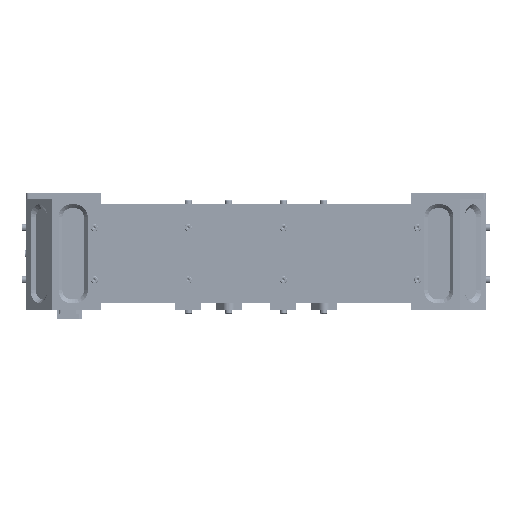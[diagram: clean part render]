
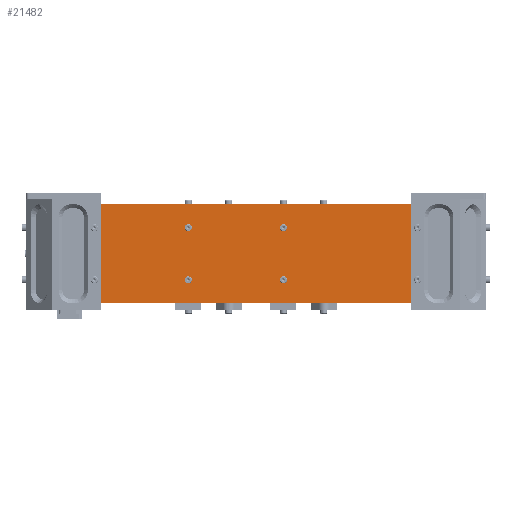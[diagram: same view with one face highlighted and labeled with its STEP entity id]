
A CAD part, front view. The second image highlights one B-rep face of the part: STEP entity #21482.
In plain terms, the highlighted planar face has unit normal (0, -1, 0) as drawn and (0, 0, 1) by its records, which use the part's own axes.
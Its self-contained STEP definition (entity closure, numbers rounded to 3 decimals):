
#551 = EDGE_LOOP ( 'NONE', ( #66320 ) ) ;
#3867 = EDGE_LOOP ( 'NONE', ( #23033 ) ) ;
#3986 = LINE ( 'NONE', #58000, #69368 ) ;
#4027 = CIRCLE ( 'NONE', #54430, 1.5 ) ;
#4542 = EDGE_CURVE ( 'NONE', #50013, #50013, #10849, .T. ) ;
#5092 = EDGE_CURVE ( 'NONE', #77213, #77213, #75226, .T. ) ;
#5293 = VECTOR ( 'NONE', #51766, 1000. ) ;
#7143 = VERTEX_POINT ( 'NONE', #40174 ) ;
#8223 = DIRECTION ( 'NONE',  ( -1., 0., 0. ) ) ;
#8430 = CARTESIAN_POINT ( 'NONE',  ( 19.502, -20., 2. ) ) ;
#8496 = AXIS2_PLACEMENT_3D ( 'NONE', #30474, #60066, #11552 ) ;
#8736 = ORIENTED_EDGE ( 'NONE', *, *, #11051, .T. ) ;
#9194 = VERTEX_POINT ( 'NONE', #40347 ) ;
#9364 = FACE_BOUND ( 'NONE', #74142, .T. ) ;
#10216 = DIRECTION ( 'NONE',  ( -1., 0., 0. ) ) ;
#10849 = CIRCLE ( 'NONE', #41061, 1.75 ) ;
#11051 = EDGE_CURVE ( 'NONE', #68396, #7143, #70907, .T. ) ;
#11508 = LINE ( 'NONE', #59644, #5293 ) ;
#11552 = DIRECTION ( 'NONE',  ( -1., 0., 0. ) ) ;
#12549 = ORIENTED_EDGE ( 'NONE', *, *, #50160, .T. ) ;
#13053 = CIRCLE ( 'NONE', #25679, 1.75 ) ;
#13081 = DIRECTION ( 'NONE',  ( 0., 0., -1. ) ) ;
#13945 = VECTOR ( 'NONE', #15033, 1000. ) ;
#15033 = DIRECTION ( 'NONE',  ( -1., 0., 0. ) ) ;
#15159 = ORIENTED_EDGE ( 'NONE', *, *, #4542, .T. ) ;
#15658 = PLANE ( 'NONE',  #58960 ) ;
#16428 = DIRECTION ( 'NONE',  ( 0., 0., -1. ) ) ;
#17352 = DIRECTION ( 'NONE',  ( 0., 0., -1. ) ) ;
#18259 = CARTESIAN_POINT ( 'NONE',  ( -142.5, 38., 2. ) ) ;
#21482 = ADVANCED_FACE ( 'NONE', ( #57876, #9364, #33456, #69767, #29067, #53139, #77260, #46464, #47233 ), #15658, .F. ) ;
#21772 = VERTEX_POINT ( 'NONE', #27657 ) ;
#22822 = VECTOR ( 'NONE', #49579, 1000. ) ;
#23033 = ORIENTED_EDGE ( 'NONE', *, *, #32543, .T. ) ;
#23949 = DIRECTION ( 'NONE',  ( -1., 0., 0. ) ) ;
#25679 = AXIS2_PLACEMENT_3D ( 'NONE', #50443, #13081, #8223 ) ;
#25821 = VERTEX_POINT ( 'NONE', #8430 ) ;
#26174 = CARTESIAN_POINT ( 'NONE',  ( 124.025, 20., 2. ) ) ;
#27046 = DIRECTION ( 'NONE',  ( 0., 0., -1. ) ) ;
#27266 = DIRECTION ( 'NONE',  ( 1., 0., 0. ) ) ;
#27267 = AXIS2_PLACEMENT_3D ( 'NONE', #26174, #36835, #42764 ) ;
#27504 = EDGE_LOOP ( 'NONE', ( #65835 ) ) ;
#27657 = CARTESIAN_POINT ( 'NONE',  ( 142.5, 38., 2. ) ) ;
#27904 = EDGE_CURVE ( 'NONE', #34287, #34287, #48177, .T. ) ;
#27945 = CARTESIAN_POINT ( 'NONE',  ( 122.275, -20., 2. ) ) ;
#28405 = CIRCLE ( 'NONE', #76326, 1.75 ) ;
#29067 = FACE_BOUND ( 'NONE', #49856, .T. ) ;
#29856 = DIRECTION ( 'NONE',  ( 0., 0., -1. ) ) ;
#30474 = CARTESIAN_POINT ( 'NONE',  ( 21.002, 20., 2. ) ) ;
#30489 = CARTESIAN_POINT ( 'NONE',  ( 142.5, -38., 2. ) ) ;
#31803 = AXIS2_PLACEMENT_3D ( 'NONE', #45580, #27046, #52248 ) ;
#32543 = EDGE_CURVE ( 'NONE', #25821, #25821, #4027, .T. ) ;
#33217 = CARTESIAN_POINT ( 'NONE',  ( -142.5, 38., 2. ) ) ;
#33456 = FACE_BOUND ( 'NONE', #68016, .T. ) ;
#34287 = VERTEX_POINT ( 'NONE', #75373 ) ;
#34598 = ORIENTED_EDGE ( 'NONE', *, *, #27904, .T. ) ;
#34691 = DIRECTION ( 'NONE',  ( 0., 0., -1. ) ) ;
#36030 = EDGE_LOOP ( 'NONE', ( #34598 ) ) ;
#36835 = DIRECTION ( 'NONE',  ( 0., 0., -1. ) ) ;
#37574 = EDGE_CURVE ( 'NONE', #52389, #52389, #28405, .T. ) ;
#38156 = CARTESIAN_POINT ( 'NONE',  ( -125.771, -20., 2. ) ) ;
#38569 = EDGE_LOOP ( 'NONE', ( #63985, #42732, #8736, #46545 ) ) ;
#38765 = DIRECTION ( 'NONE',  ( -1., 0., 0. ) ) ;
#39743 = DIRECTION ( 'NONE',  ( -1., 0., 0. ) ) ;
#40174 = CARTESIAN_POINT ( 'NONE',  ( -142.5, -38., 2. ) ) ;
#40347 = CARTESIAN_POINT ( 'NONE',  ( 19.502, 20., 2. ) ) ;
#41061 = AXIS2_PLACEMENT_3D ( 'NONE', #44715, #74325, #38765 ) ;
#41443 = DIRECTION ( 'NONE',  ( -1., 0., 0. ) ) ;
#42732 = ORIENTED_EDGE ( 'NONE', *, *, #71402, .T. ) ;
#42764 = DIRECTION ( 'NONE',  ( -1., 0., 0. ) ) ;
#43485 = EDGE_CURVE ( 'NONE', #51301, #21772, #11508, .T. ) ;
#43978 = CARTESIAN_POINT ( 'NONE',  ( -53.498, -20., 2. ) ) ;
#44715 = CARTESIAN_POINT ( 'NONE',  ( -124.021, -20., 2. ) ) ;
#45580 = CARTESIAN_POINT ( 'NONE',  ( -51.998, 20., 2. ) ) ;
#45715 = EDGE_CURVE ( 'NONE', #66079, #66079, #13053, .T. ) ;
#45764 = CARTESIAN_POINT ( 'NONE',  ( 21.002, -20., 2. ) ) ;
#46056 = CIRCLE ( 'NONE', #8496, 1.5 ) ;
#46464 = FACE_BOUND ( 'NONE', #77480, .T. ) ;
#46545 = ORIENTED_EDGE ( 'NONE', *, *, #53720, .T. ) ;
#47233 = FACE_OUTER_BOUND ( 'NONE', #38569, .T. ) ;
#47889 = EDGE_CURVE ( 'NONE', #56178, #56178, #68673, .T. ) ;
#48177 = CIRCLE ( 'NONE', #31803, 1.5 ) ;
#49579 = DIRECTION ( 'NONE',  ( 0., -1., 0. ) ) ;
#49856 = EDGE_LOOP ( 'NONE', ( #15159 ) ) ;
#50013 = VERTEX_POINT ( 'NONE', #38156 ) ;
#50160 = EDGE_CURVE ( 'NONE', #9194, #9194, #46056, .T. ) ;
#50443 = CARTESIAN_POINT ( 'NONE',  ( -124.021, 20., 2. ) ) ;
#51301 = VERTEX_POINT ( 'NONE', #30489 ) ;
#51766 = DIRECTION ( 'NONE',  ( 0., 1., 0. ) ) ;
#52248 = DIRECTION ( 'NONE',  ( -1., 0., 0. ) ) ;
#52389 = VERTEX_POINT ( 'NONE', #27945 ) ;
#53139 = FACE_BOUND ( 'NONE', #27504, .T. ) ;
#53720 = EDGE_CURVE ( 'NONE', #7143, #51301, #3986, .T. ) ;
#54430 = AXIS2_PLACEMENT_3D ( 'NONE', #45764, #34691, #10216 ) ;
#54496 = ORIENTED_EDGE ( 'NONE', *, *, #47889, .T. ) ;
#55662 = ORIENTED_EDGE ( 'NONE', *, *, #5092, .T. ) ;
#56178 = VERTEX_POINT ( 'NONE', #43978 ) ;
#57491 = CARTESIAN_POINT ( 'NONE',  ( 0., 0., 2. ) ) ;
#57876 = FACE_BOUND ( 'NONE', #3867, .T. ) ;
#58000 = CARTESIAN_POINT ( 'NONE',  ( -142.5, -38., 2. ) ) ;
#58960 = AXIS2_PLACEMENT_3D ( 'NONE', #57491, #16428, #39743 ) ;
#59644 = CARTESIAN_POINT ( 'NONE',  ( 142.5, -38., 2. ) ) ;
#60066 = DIRECTION ( 'NONE',  ( 0., 0., -1. ) ) ;
#63985 = ORIENTED_EDGE ( 'NONE', *, *, #43485, .T. ) ;
#64124 = CARTESIAN_POINT ( 'NONE',  ( 122.275, 20., 2. ) ) ;
#65780 = CARTESIAN_POINT ( 'NONE',  ( -51.998, -20., 2. ) ) ;
#65835 = ORIENTED_EDGE ( 'NONE', *, *, #45715, .T. ) ;
#66079 = VERTEX_POINT ( 'NONE', #66474 ) ;
#66143 = CARTESIAN_POINT ( 'NONE',  ( -142.5, -38., 2. ) ) ;
#66320 = ORIENTED_EDGE ( 'NONE', *, *, #37574, .T. ) ;
#66474 = CARTESIAN_POINT ( 'NONE',  ( -125.771, 20., 2. ) ) ;
#68016 = EDGE_LOOP ( 'NONE', ( #54496 ) ) ;
#68396 = VERTEX_POINT ( 'NONE', #18259 ) ;
#68673 = CIRCLE ( 'NONE', #74970, 1.5 ) ;
#69368 = VECTOR ( 'NONE', #27266, 1000. ) ;
#69767 = FACE_BOUND ( 'NONE', #36030, .T. ) ;
#70283 = CARTESIAN_POINT ( 'NONE',  ( 124.025, -20., 2. ) ) ;
#70907 = LINE ( 'NONE', #66143, #22822 ) ;
#71402 = EDGE_CURVE ( 'NONE', #21772, #68396, #77014, .T. ) ;
#74142 = EDGE_LOOP ( 'NONE', ( #12549 ) ) ;
#74325 = DIRECTION ( 'NONE',  ( 0., 0., -1. ) ) ;
#74970 = AXIS2_PLACEMENT_3D ( 'NONE', #65780, #29856, #23949 ) ;
#75226 = CIRCLE ( 'NONE', #27267, 1.75 ) ;
#75373 = CARTESIAN_POINT ( 'NONE',  ( -53.498, 20., 2. ) ) ;
#76326 = AXIS2_PLACEMENT_3D ( 'NONE', #70283, #17352, #41443 ) ;
#77014 = LINE ( 'NONE', #33217, #13945 ) ;
#77213 = VERTEX_POINT ( 'NONE', #64124 ) ;
#77260 = FACE_BOUND ( 'NONE', #551, .T. ) ;
#77480 = EDGE_LOOP ( 'NONE', ( #55662 ) ) ;
